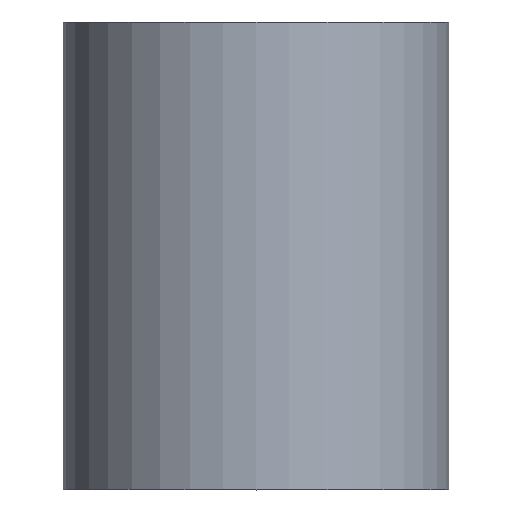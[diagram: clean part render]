
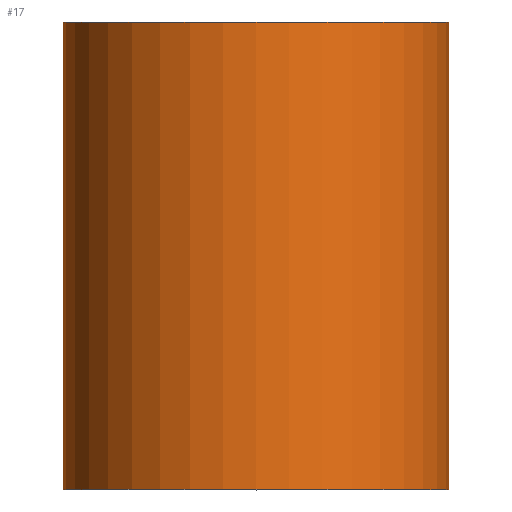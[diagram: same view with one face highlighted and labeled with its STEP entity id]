
A CAD part, top view. The second image highlights one B-rep face of the part: STEP entity #17.
In plain terms, the highlighted cylindrical face has radius 8 mm (diameter 16 mm), a full revolution.
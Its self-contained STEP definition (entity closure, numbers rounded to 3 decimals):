
#17 = ADVANCED_FACE('',(#18),#32,.T.);
#18 = FACE_BOUND('',#19,.F.);
#19 = EDGE_LOOP('',(#20,#50,#77,#78));
#20 = ORIENTED_EDGE('',*,*,#21,.T.);
#21 = EDGE_CURVE('',#22,#24,#26,.T.);
#22 = VERTEX_POINT('',#23);
#23 = CARTESIAN_POINT('',(8.,-40.9,0.));
#24 = VERTEX_POINT('',#25);
#25 = CARTESIAN_POINT('',(8.,-21.5,0.));
#26 = SEAM_CURVE('',#27,(#31,#43),.PCURVE_S1.);
#27 = LINE('',#28,#29);
#28 = CARTESIAN_POINT('',(8.,-40.9,0.));
#29 = VECTOR('',#30,1.);
#30 = DIRECTION('',(0.,1.,0.));
#31 = PCURVE('',#32,#37);
#32 = CYLINDRICAL_SURFACE('',#33,8.);
#33 = AXIS2_PLACEMENT_3D('',#34,#35,#36);
#34 = CARTESIAN_POINT('',(0.,-40.9,0.));
#35 = DIRECTION('',(0.,-1.,-0.));
#36 = DIRECTION('',(1.,0.,0.));
#37 = DEFINITIONAL_REPRESENTATION('',(#38),#42);
#38 = LINE('',#39,#40);
#39 = CARTESIAN_POINT('',(-0.,0.));
#40 = VECTOR('',#41,1.);
#41 = DIRECTION('',(-0.,-1.));
#42 = ( GEOMETRIC_REPRESENTATION_CONTEXT(2) 
PARAMETRIC_REPRESENTATION_CONTEXT() REPRESENTATION_CONTEXT('2D SPACE',''
  ) );
#43 = PCURVE('',#32,#44);
#44 = DEFINITIONAL_REPRESENTATION('',(#45),#49);
#45 = LINE('',#46,#47);
#46 = CARTESIAN_POINT('',(-6.283,0.));
#47 = VECTOR('',#48,1.);
#48 = DIRECTION('',(-0.,-1.));
#49 = ( GEOMETRIC_REPRESENTATION_CONTEXT(2) 
PARAMETRIC_REPRESENTATION_CONTEXT() REPRESENTATION_CONTEXT('2D SPACE',''
  ) );
#50 = ORIENTED_EDGE('',*,*,#51,.T.);
#51 = EDGE_CURVE('',#24,#24,#52,.T.);
#52 = SURFACE_CURVE('',#53,(#58,#65),.PCURVE_S1.);
#53 = CIRCLE('',#54,8.);
#54 = AXIS2_PLACEMENT_3D('',#55,#56,#57);
#55 = CARTESIAN_POINT('',(0.,-21.5,0.));
#56 = DIRECTION('',(-0.,1.,0.));
#57 = DIRECTION('',(1.,0.,0.));
#58 = PCURVE('',#32,#59);
#59 = DEFINITIONAL_REPRESENTATION('',(#60),#64);
#60 = LINE('',#61,#62);
#61 = CARTESIAN_POINT('',(-0.,-19.4));
#62 = VECTOR('',#63,1.);
#63 = DIRECTION('',(-1.,0.));
#64 = ( GEOMETRIC_REPRESENTATION_CONTEXT(2) 
PARAMETRIC_REPRESENTATION_CONTEXT() REPRESENTATION_CONTEXT('2D SPACE',''
  ) );
#65 = PCURVE('',#66,#71);
#66 = PLANE('',#67);
#67 = AXIS2_PLACEMENT_3D('',#68,#69,#70);
#68 = CARTESIAN_POINT('',(0.,-21.5,0.)
  );
#69 = DIRECTION('',(0.,1.,0.));
#70 = DIRECTION('',(0.,-0.,1.));
#71 = DEFINITIONAL_REPRESENTATION('',(#72),#76);
#72 = CIRCLE('',#73,8.);
#73 = AXIS2_PLACEMENT_2D('',#74,#75);
#74 = CARTESIAN_POINT('',(0.,0.));
#75 = DIRECTION('',(0.,1.));
#76 = ( GEOMETRIC_REPRESENTATION_CONTEXT(2) 
PARAMETRIC_REPRESENTATION_CONTEXT() REPRESENTATION_CONTEXT('2D SPACE',''
  ) );
#77 = ORIENTED_EDGE('',*,*,#21,.F.);
#78 = ORIENTED_EDGE('',*,*,#79,.F.);
#79 = EDGE_CURVE('',#22,#22,#80,.T.);
#80 = SURFACE_CURVE('',#81,(#86,#93),.PCURVE_S1.);
#81 = CIRCLE('',#82,8.);
#82 = AXIS2_PLACEMENT_3D('',#83,#84,#85);
#83 = CARTESIAN_POINT('',(0.,-40.9,0.));
#84 = DIRECTION('',(-0.,1.,0.));
#85 = DIRECTION('',(1.,0.,0.));
#86 = PCURVE('',#32,#87);
#87 = DEFINITIONAL_REPRESENTATION('',(#88),#92);
#88 = LINE('',#89,#90);
#89 = CARTESIAN_POINT('',(-0.,0.));
#90 = VECTOR('',#91,1.);
#91 = DIRECTION('',(-1.,0.));
#92 = ( GEOMETRIC_REPRESENTATION_CONTEXT(2) 
PARAMETRIC_REPRESENTATION_CONTEXT() REPRESENTATION_CONTEXT('2D SPACE',''
  ) );
#93 = PCURVE('',#94,#99);
#94 = PLANE('',#95);
#95 = AXIS2_PLACEMENT_3D('',#96,#97,#98);
#96 = CARTESIAN_POINT('',(0.,-40.9,0.)
  );
#97 = DIRECTION('',(0.,1.,0.));
#98 = DIRECTION('',(0.,-0.,1.));
#99 = DEFINITIONAL_REPRESENTATION('',(#100),#104);
#100 = CIRCLE('',#101,8.);
#101 = AXIS2_PLACEMENT_2D('',#102,#103);
#102 = CARTESIAN_POINT('',(0.,0.));
#103 = DIRECTION('',(0.,1.));
#104 = ( GEOMETRIC_REPRESENTATION_CONTEXT(2) 
PARAMETRIC_REPRESENTATION_CONTEXT() REPRESENTATION_CONTEXT('2D SPACE',''
  ) );
